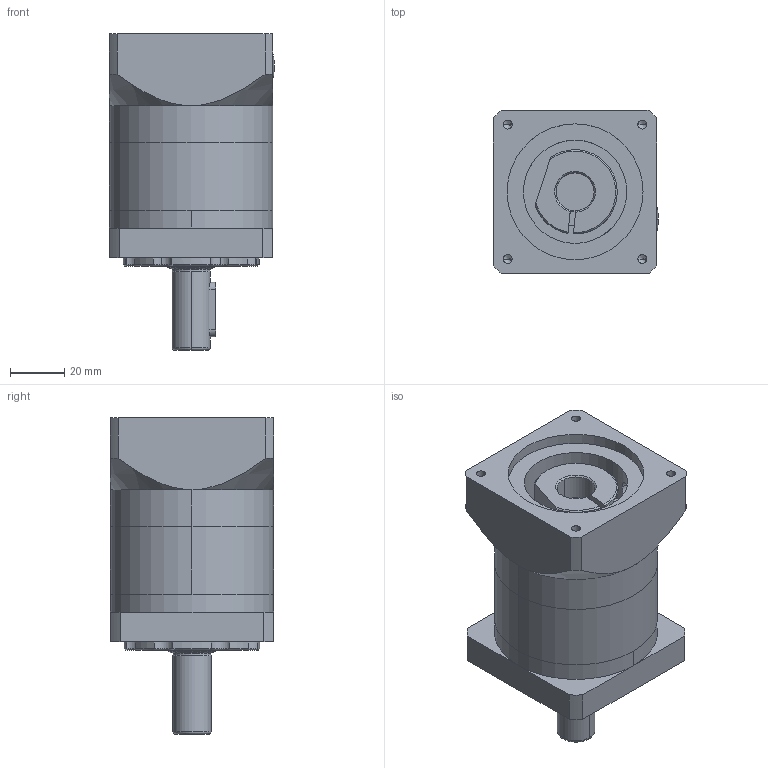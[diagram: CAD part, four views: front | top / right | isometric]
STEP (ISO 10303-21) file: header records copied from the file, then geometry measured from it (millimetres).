
FILE_DESCRIPTION (( 'STEP AP203' ), '1' );
FILE_NAME ('LSF60-(L1)-S2-P2-5070M4.STEP', '2024-11-14T09:05:44', ( '微软用户' ), ( '微软中国' ), 'SwSTEP 2.0', 'SolidWorks 2022', '' );
FILE_SCHEMA (( 'CONFIG_CONTROL_DESIGN' ));
Length unit declared in the file: millimetre
Products named in the file (1): LSF60-(L1)-S2-P2-5070M4
Bounding box: 60.7 x 60 x 116.5 mm (x, y, z)
Volume: 242587.1 mm3; surface area: 49939.9 mm2
Topology: 6 solids, 6 shells, 433 faces, 986 edges, 580 vertices
Faces by surface type: plane 165, cylinder 127, cone 117, torus 24
Entity records: 12588 total; most frequent: CARTESIAN_POINT 2770, DIRECTION 2190, ORIENTED_EDGE 1916, EDGE_CURVE 958, AXIS2_PLACEMENT_3D 899, VERTEX_POINT 580, EDGE_LOOP 484, CIRCLE 465
